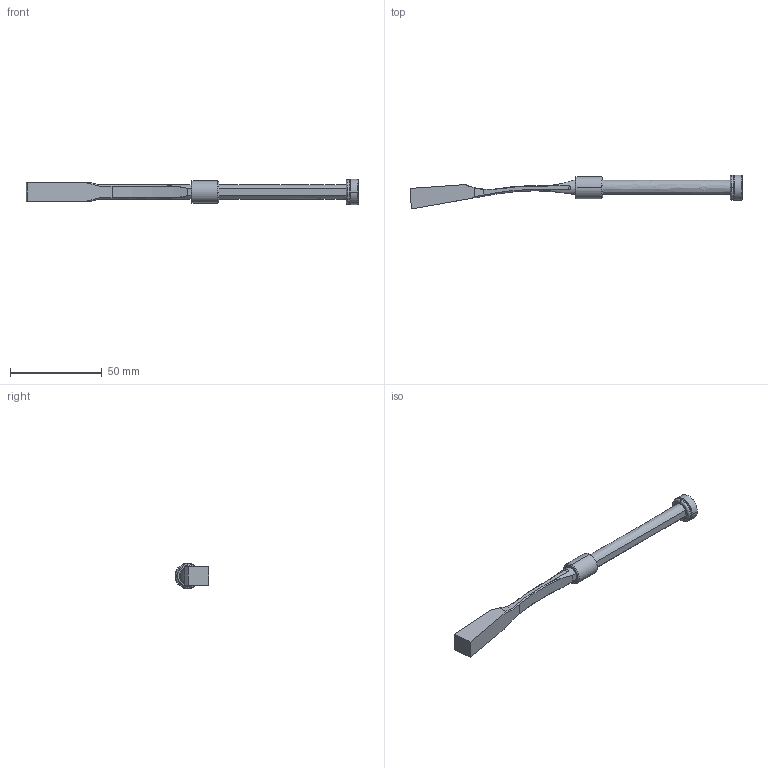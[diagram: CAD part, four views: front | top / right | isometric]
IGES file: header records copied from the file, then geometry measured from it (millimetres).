
Start section: START RECORD GO HERE.
Global section: file name: pw081030_ejection.igs; native system: DASSAULT SYSTEMES CATIA V5 R20 - www.3ds.com; preprocessor: CATIA Version 5 Release 20 ; author: Utente; organization: NB04-ASUS; date: 20201108.135347; units: millimetre
Bounding box: 180.5 x 18.47 x 13.8 mm (x, y, z)
Surface area: 7584.3 mm2 (no closed solid volume)
Topology: 0 solids, 0 shells, 109 faces, 486 edges, 482 vertices
Faces by surface type: revolution 70, plane 37, bspline 2
